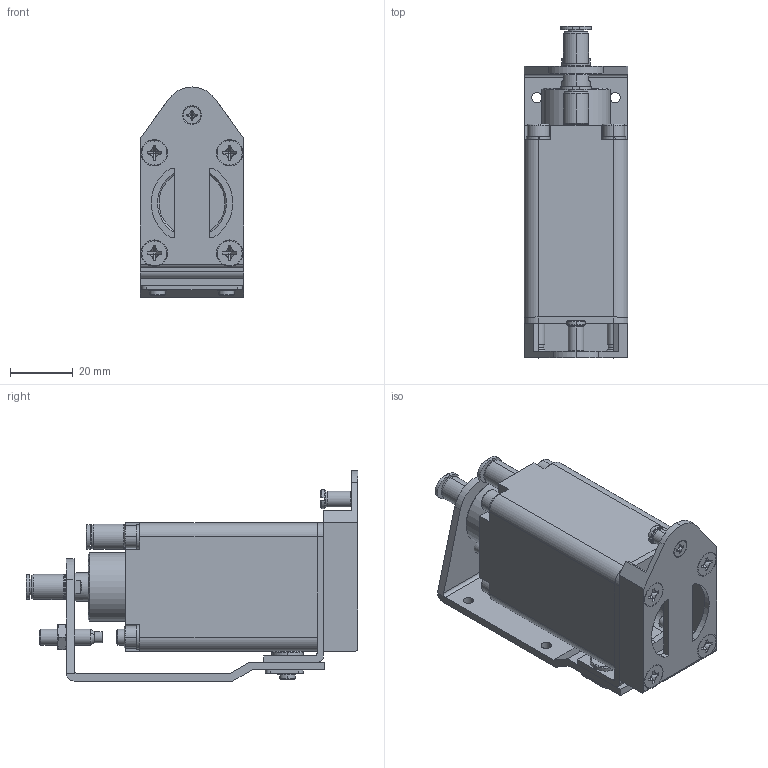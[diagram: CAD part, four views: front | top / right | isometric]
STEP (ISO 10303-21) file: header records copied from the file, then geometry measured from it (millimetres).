
FILE_DESCRIPTION (( 'STEP AP214' ), '1' );
FILE_NAME ('GT-NY15-4.STEP', '2019-11-26T08:19:07', ( '微软用户' ), ( '微软中国' ), 'SwSTEP 2.0', 'SolidWorks 2016', '' );
FILE_SCHEMA (( 'AUTOMOTIVE_DESIGN' ));
Length unit declared in the file: millimetre
Products named in the file (1): GT-NY15-4
Bounding box: 33 x 105.8 x 67 mm (x, y, z)
Surface area: 35792.7 mm2 (no closed solid volume)
Topology: 0 solids, 30 shells, 750 faces, 1923 edges, 1252 vertices
Faces by surface type: plane 331, cylinder 251, bspline 114, cone 32, torus 22
Full cylindrical faces by diameter (mm): 2 x1
Entity records: 31228 total; most frequent: CARTESIAN_POINT 9772, ORIENTED_EDGE 3783, DIRECTION 3457, EDGE_CURVE 1915, AXIS2_PLACEMENT_3D 1316, VERTEX_POINT 1252, EDGE_LOOP 850, LINE 825
